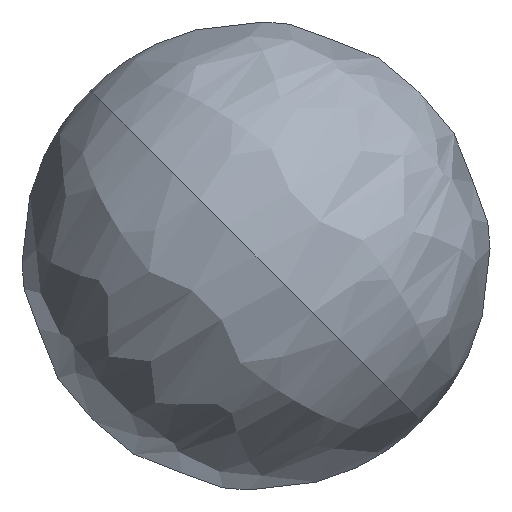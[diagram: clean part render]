
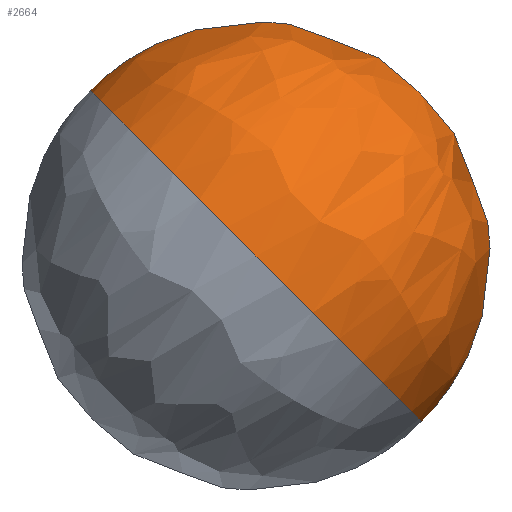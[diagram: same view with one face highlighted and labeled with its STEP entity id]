
A CAD part, front view. The second image highlights one B-rep face of the part: STEP entity #2664.
In plain terms, the highlighted free-form (B-spline) face has degree [3, 3] with [4, 4] control points.
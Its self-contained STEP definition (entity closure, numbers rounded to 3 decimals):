
#170 = FACE_OUTER_BOUND ( 'NONE', #6326, .T. ) ;
#288 =( BOUNDED_SURFACE ( )  B_SPLINE_SURFACE ( 3, 3, ( 
 ( #3719, #3726, #3734, #3717 ),
 ( #3716, #3715, #3714, #3713 ),
 ( #3712, #3711, #3710, #3709 ),
 ( #3708, #3707, #3706, #3705 ) ),
 .UNSPECIFIED., .F., .F., .F. ) 
 B_SPLINE_SURFACE_WITH_KNOTS ( ( 4, 4 ),
 ( 4, 4 ),
 ( 0., 1. ),
 ( 0., 1. ),
 .UNSPECIFIED. ) 
 GEOMETRIC_REPRESENTATION_ITEM ( )  RATIONAL_B_SPLINE_SURFACE ( (
 ( 1., 0.333, 0.333, 1.),
 ( 0.333, 0.111, 0.111, 0.333),
 ( 0.333, 0.111, 0.111, 0.333),
 ( 1., 0.333, 0.333, 1.) ) ) 
 REPRESENTATION_ITEM ( '' )  SURFACE ( )  );
#540 = CARTESIAN_POINT ( 'NONE',  ( 16., -88.566, 0. ) ) ;
#548 = CARTESIAN_POINT ( 'NONE',  ( -90., 0., 0. ) ) ;
#554 = CARTESIAN_POINT ( 'NONE',  ( 90., 0., 0. ) ) ;
#556 = CARTESIAN_POINT ( 'NONE',  ( -16., -88.566, 0. ) ) ;
#568 = CARTESIAN_POINT ( 'NONE',  ( 0., -88.566, 16. ) ) ;
#968 = VERTEX_POINT ( 'NONE', #568 ) ;
#980 = VERTEX_POINT ( 'NONE', #556 ) ;
#982 = VERTEX_POINT ( 'NONE', #554 ) ;
#988 = VERTEX_POINT ( 'NONE', #548 ) ;
#996 = VERTEX_POINT ( 'NONE', #540 ) ;
#1206 = EDGE_CURVE ( 'NONE', #982, #996, #1580, .T. ) ;
#1212 = EDGE_CURVE ( 'NONE', #980, #988, #1587, .T. ) ;
#1215 = EDGE_CURVE ( 'NONE', #982, #988, #1592, .T. ) ;
#1222 = EDGE_CURVE ( 'NONE', #980, #968, #1598, .T. ) ;
#1228 = EDGE_CURVE ( 'NONE', #968, #996, #1607, .T. ) ;
#1580 = CIRCLE ( 'NONE', #2317, 90. ) ;
#1587 = CIRCLE ( 'NONE', #2311, 90. ) ;
#1592 = CIRCLE ( 'NONE', #2302, 90. ) ;
#1598 = CIRCLE ( 'NONE', #2412, 16. ) ;
#1607 = CIRCLE ( 'NONE', #2393, 16. ) ;
#2302 = AXIS2_PLACEMENT_3D ( 'NONE', #5164, #5159, #5158 ) ;
#2311 = AXIS2_PLACEMENT_3D ( 'NONE', #5174, #5166, #5165 ) ;
#2317 = AXIS2_PLACEMENT_3D ( 'NONE', #5184, #5182, #5181 ) ;
#2393 = AXIS2_PLACEMENT_3D ( 'NONE', #5126, #5119, #5118 ) ;
#2412 = AXIS2_PLACEMENT_3D ( 'NONE', #5140, #5139, #5138 ) ;
#2664 = ADVANCED_FACE ( 'NONE', ( #170 ), #288, .T. ) ;
#3705 = CARTESIAN_POINT ( 'NONE',  ( -90., 0., 0. ) ) ;
#3706 = CARTESIAN_POINT ( 'NONE',  ( -90., 0., 0. ) ) ;
#3707 = CARTESIAN_POINT ( 'NONE',  ( -90., 0., 0. ) ) ;
#3708 = CARTESIAN_POINT ( 'NONE',  ( -90., 0., 0. ) ) ;
#3709 = CARTESIAN_POINT ( 'NONE',  ( -90., -180., 0. ) ) ;
#3710 = CARTESIAN_POINT ( 'NONE',  ( -90., -180., 360. ) ) ;
#3711 = CARTESIAN_POINT ( 'NONE',  ( -90., 180., 360. ) ) ;
#3712 = CARTESIAN_POINT ( 'NONE',  ( -90., 180., 0. ) ) ;
#3713 = CARTESIAN_POINT ( 'NONE',  ( 90., -180., 0. ) ) ;
#3714 = CARTESIAN_POINT ( 'NONE',  ( 90., -180., 360. ) ) ;
#3715 = CARTESIAN_POINT ( 'NONE',  ( 90., 180., 360. ) ) ;
#3716 = CARTESIAN_POINT ( 'NONE',  ( 90., 180., 0. ) ) ;
#3717 = CARTESIAN_POINT ( 'NONE',  ( 90., 0., 0. ) ) ;
#3719 = CARTESIAN_POINT ( 'NONE',  ( 90., 0., 0. ) ) ;
#3726 = CARTESIAN_POINT ( 'NONE',  ( 90., 0., 0. ) ) ;
#3734 = CARTESIAN_POINT ( 'NONE',  ( 90., 0., 0. ) ) ;
#5118 = DIRECTION ( 'NONE',  ( 0., 0., -1. ) ) ;
#5119 = DIRECTION ( 'NONE',  ( 0., 1., 0. ) ) ;
#5126 = CARTESIAN_POINT ( 'NONE',  ( 0., -88.566, 0. ) ) ;
#5138 = DIRECTION ( 'NONE',  ( 0., 0., -1. ) ) ;
#5139 = DIRECTION ( 'NONE',  ( 0., 1., 0. ) ) ;
#5140 = CARTESIAN_POINT ( 'NONE',  ( 0., -88.566, 0. ) ) ;
#5158 = DIRECTION ( 'NONE',  ( 1., 0., 0. ) ) ;
#5159 = DIRECTION ( 'NONE',  ( 0., 0., 1. ) ) ;
#5164 = CARTESIAN_POINT ( 'NONE',  ( 0., 0., 0. ) ) ;
#5165 = DIRECTION ( 'NONE',  ( 1., 0., 0. ) ) ;
#5166 = DIRECTION ( 'NONE',  ( 0., 0., -1. ) ) ;
#5174 = CARTESIAN_POINT ( 'NONE',  ( 0., 0., 0. ) ) ;
#5181 = DIRECTION ( 'NONE',  ( 1., 0., 0. ) ) ;
#5182 = DIRECTION ( 'NONE',  ( 0., 0., -1. ) ) ;
#5184 = CARTESIAN_POINT ( 'NONE',  ( 0., 0., 0. ) ) ;
#6326 = EDGE_LOOP ( 'NONE', ( #6699, #6689, #6692, #6686, #6687 ) ) ;
#6686 = ORIENTED_EDGE ( 'NONE', *, *, #1222, .T. ) ;
#6687 = ORIENTED_EDGE ( 'NONE', *, *, #1228, .T. ) ;
#6689 = ORIENTED_EDGE ( 'NONE', *, *, #1215, .T. ) ;
#6692 = ORIENTED_EDGE ( 'NONE', *, *, #1212, .F. ) ;
#6699 = ORIENTED_EDGE ( 'NONE', *, *, #1206, .F. ) ;
